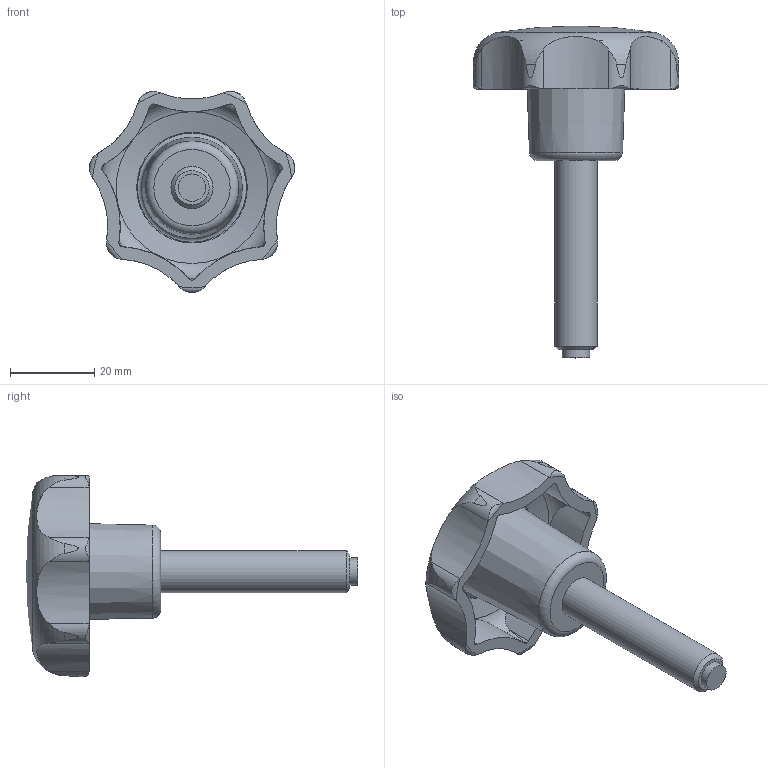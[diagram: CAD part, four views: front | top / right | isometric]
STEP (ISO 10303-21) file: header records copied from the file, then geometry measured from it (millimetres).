
FILE_DESCRIPTION( ( 'STEP AP203' ), '1' );
FILE_NAME( 'C:/Temp/Ganter_Step_05_03_2020/data/2_2/gn6336_10/Star knob GN 6336.10-50-M10-45-KU.stp', '2020-03-05T12:04:28', ( 'License CC BY-ND 4.0' ), ( 'CADENAS' ), ' ', 'PARTsolutions', ' ' );
FILE_SCHEMA( ( 'CONFIG_CONTROL_DESIGN' ) );
Length unit declared in the file: millimetre
Products named in the file (1): _Star knob GN 6336.10-50-M10-45-KU
Bounding box: 48.81 x 78.9 x 47.78 mm (x, y, z)
Volume: 24166.4 mm3; surface area: 9712.5 mm2
Topology: 1 solids, 1 shells, 64 faces, 189 edges, 129 vertices
Faces by surface type: cylinder 30, cone 17, torus 12, plane 4, sphere 1
Full cylindrical faces by diameter (mm): 6.5 x1, 10 x1
Entity records: 3108 total; most frequent: CARTESIAN_POINT 1546, ORIENTED_EDGE 346, DIRECTION 266, EDGE_CURVE 173, VERTEX_POINT 125, AXIS2_PLACEMENT_3D 119, B_SPLINE_CURVE_WITH_KNOTS 91, EDGE_LOOP 77
